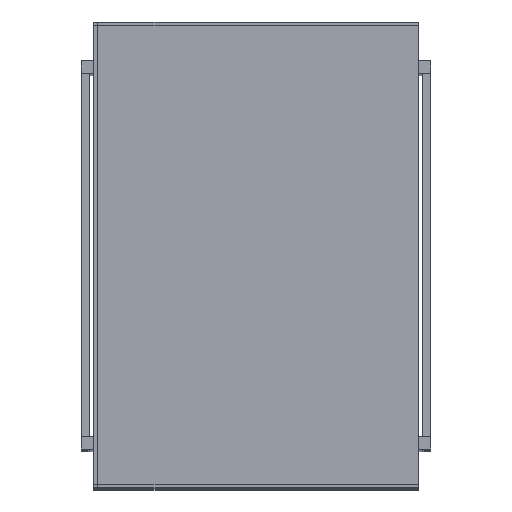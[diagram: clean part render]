
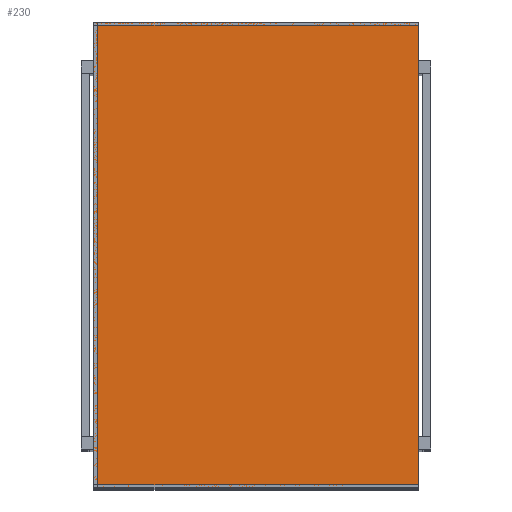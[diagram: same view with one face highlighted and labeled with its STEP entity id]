
A CAD part, top view. The second image highlights one B-rep face of the part: STEP entity #230.
In plain terms, the highlighted planar face has unit normal (0, 0, 1).
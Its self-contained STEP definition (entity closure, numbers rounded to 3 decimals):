
#230=ADVANCED_FACE('',(#482),#3338,.T.);
#482=FACE_OUTER_BOUND('',#734,.T.);
#734=EDGE_LOOP('',(#1328,#1329,#1330,#1331));
#1328=ORIENTED_EDGE('',*,*,#2108,.T.);
#1329=ORIENTED_EDGE('',*,*,#2109,.T.);
#1330=ORIENTED_EDGE('',*,*,#2110,.T.);
#1331=ORIENTED_EDGE('',*,*,#2111,.T.);
#2108=EDGE_CURVE('',#3040,#3041,#2612,.T.);
#2109=EDGE_CURVE('',#3041,#3042,#2613,.T.);
#2110=EDGE_CURVE('',#3042,#3043,#2614,.T.);
#2111=EDGE_CURVE('',#3043,#3040,#2615,.T.);
#2612=B_SPLINE_CURVE_WITH_KNOTS('',1,(#4750,#4751),.UNSPECIFIED.,.F.,.F.,
(2,2),(0.,41.8),.UNSPECIFIED.);
#2613=B_SPLINE_CURVE_WITH_KNOTS('',1,(#4752,#4753),.UNSPECIFIED.,.F.,.F.,
(2,2),(0.,60.),.UNSPECIFIED.);
#2614=B_SPLINE_CURVE_WITH_KNOTS('',1,(#4754,#4755),.UNSPECIFIED.,.F.,.F.,
(2,2),(-41.8,0.),.UNSPECIFIED.);
#2615=B_SPLINE_CURVE_WITH_KNOTS('',1,(#4756,#4757),.UNSPECIFIED.,.F.,.F.,
(2,2),(-60.,0.),.UNSPECIFIED.);
#3040=VERTEX_POINT('',#4742);
#3041=VERTEX_POINT('',#4743);
#3042=VERTEX_POINT('',#4744);
#3043=VERTEX_POINT('',#4745);
#3338=PLANE('',#3658);
#3658=AXIS2_PLACEMENT_3D('',#4736,#3893,$);
#3893=DIRECTION('',(0.,0.,1.));
#4736=CARTESIAN_POINT('',(24.522,-88.5,185.));
#4742=CARTESIAN_POINT('',(24.522,-88.5,185.));
#4743=CARTESIAN_POINT('',(66.322,-88.5,185.));
#4744=CARTESIAN_POINT('',(66.322,-28.5,185.));
#4745=CARTESIAN_POINT('',(24.522,-28.5,185.));
#4750=CARTESIAN_POINT('',(24.522,-88.5,185.));
#4751=CARTESIAN_POINT('',(66.322,-88.5,185.));
#4752=CARTESIAN_POINT('',(66.322,-88.5,185.));
#4753=CARTESIAN_POINT('',(66.322,-28.5,185.));
#4754=CARTESIAN_POINT('',(66.322,-28.5,185.));
#4755=CARTESIAN_POINT('',(24.522,-28.5,185.));
#4756=CARTESIAN_POINT('',(24.522,-28.5,185.));
#4757=CARTESIAN_POINT('',(24.522,-88.5,185.));
